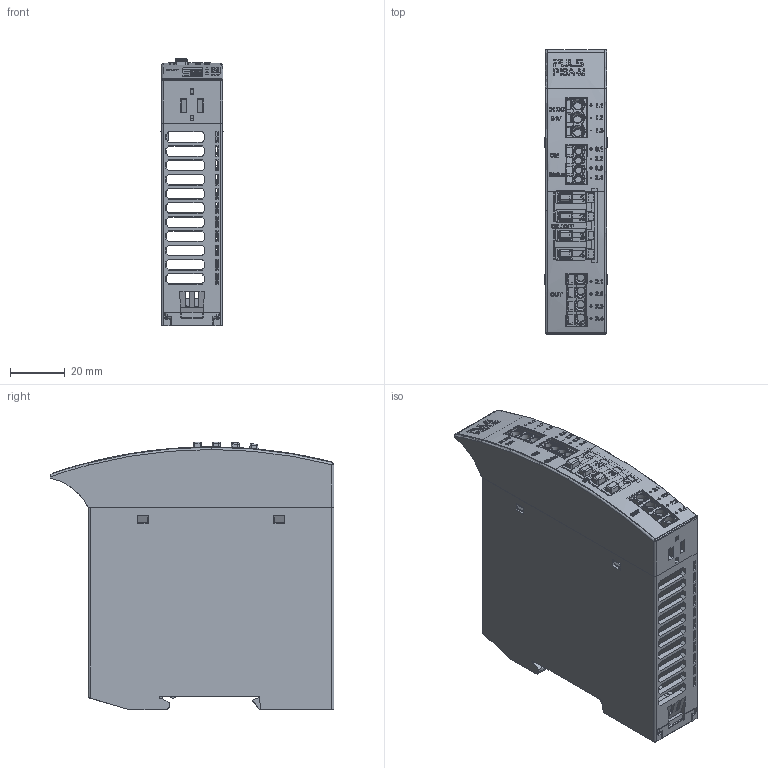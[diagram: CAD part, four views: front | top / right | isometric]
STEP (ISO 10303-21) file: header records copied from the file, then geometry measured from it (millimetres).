
FILE_DESCRIPTION (( 'STEP AP214' ), '1' );
FILE_NAME ('1025444_000.STEP', '2025-01-30T12:14:01', ( '' ), ( '' ), 'SwSTEP 2.0', 'SolidWorks 2024', '' );
FILE_SCHEMA (( 'AUTOMOTIVE_DESIGN' ));
Length unit declared in the file: millimetre
Products named in the file (8): 1024138_000; 1025444_000; 1026539_000_EL-466.930.00; 1025441_000_Défaut; 1025445_000_BRep_Config; 1024139_000; 1012431_000_Feat_Config; 1026540_000_BRep_Config
Assembly tree (7 placements, depth 2):
  1025444_000
    1025441_000_Défaut
    1026540_000_BRep_Config
    1026539_000_EL-466.930.00
    1025445_000_BRep_Config
    1024139_000
    1024138_000
    1012431_000_Feat_Config
Bounding box: 22.74 x 104.01 x 98.1 mm (x, y, z)
Volume: 51556.8 mm3; surface area: 62389.9 mm2
Topology: 7 solids, 7 shells, 3437 faces, 9872 edges, 6621 vertices
Faces by surface type: plane 2075, cylinder 750, bspline 436, sphere 82, torus 60, cone 34
Entity records: 129623 total; most frequent: CARTESIAN_POINT 43086, ORIENTED_EDGE 19724, DIRECTION 15420, EDGE_CURVE 9862, VERTEX_POINT 6617, LINE 6414, VECTOR 6414, AXIS2_PLACEMENT_3D 4503
